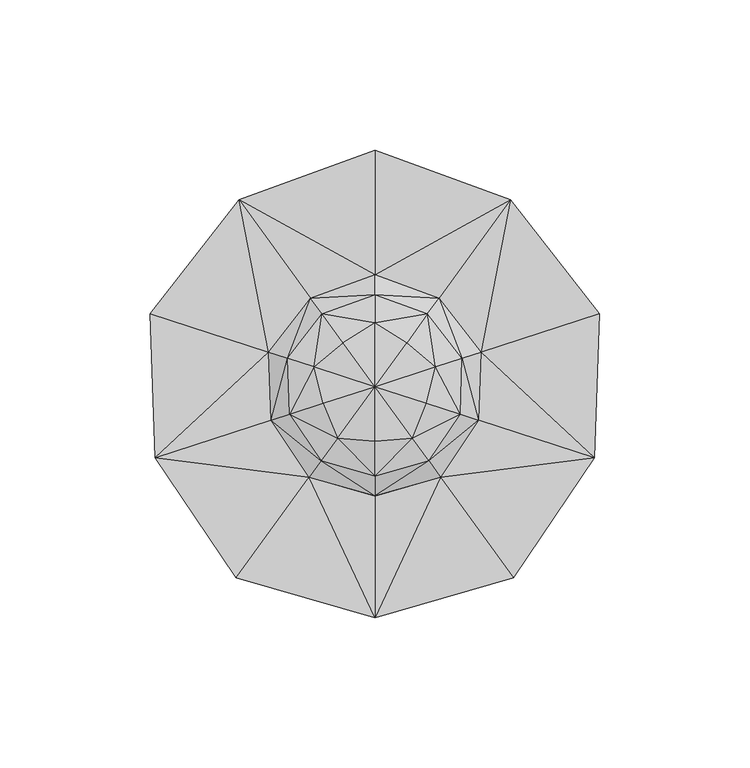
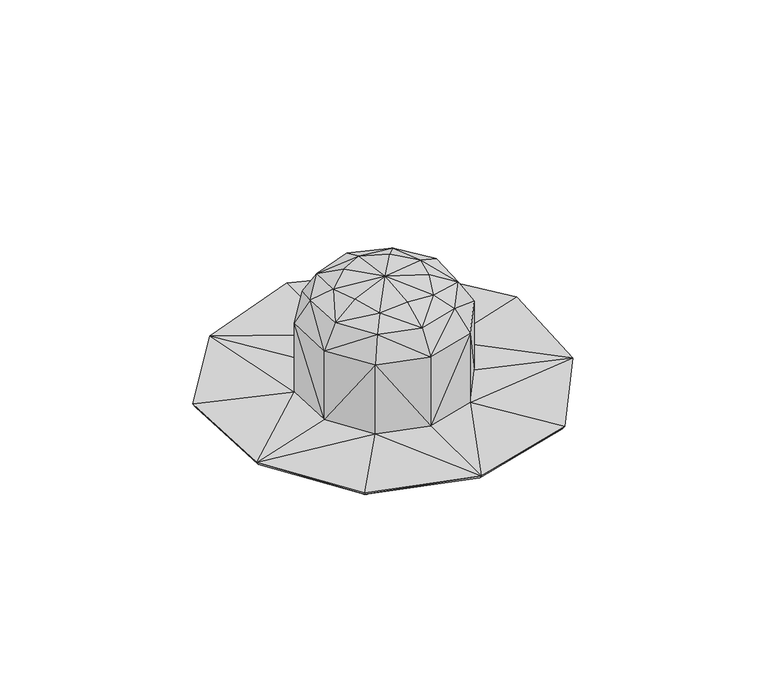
"""IFC4 building model written with IfcOpenShell, lengths in millimetres: geographic element geometry, Enscape AssetDefinition - Strawberry Cake : Enscape AssetDefinition - Strawberry Cake."""

from ifc_helpers import new_model, si_unit, origin, place, context, project, spatial, faceted_brep, source, transform, mapped, element, save


def geographic_element_7c6608a7(model_context):
    return source(origin(), model_context, "Body", "Brep", [
        faceted_brep([(-25.293177, 34.8130725, 1.1032628), (-44.5959419, 61.3810346, 7.4311858), (0.0, 48.9028804, 1.9613397), (-73.7843513, 23.9739846, 7.4311858), (-46.5094037, 15.1118152, 1.9613397), (-45.1462828, 62.1385053, 8.8836225), (0.0, 77.5814578, 7.4311858), (0.0, 0.0, 0.0), (-40.9252308, -13.2974153, 1.1032628), (-72.1577331, -23.4454684, 7.4311858), (-73.0481967, -23.734808, 8.8836225), (-74.6948868, 24.2698379, 8.8836225), (-45.6012413, -62.7647191, 7.4311858), (-28.7444014, -39.5632796, 1.9613397), (0.0, -43.0313274, 1.1032628), (0.0, -75.8711472, 7.4311858), (0.0, -76.8074468, 8.8836225), (-46.1639874, -63.5392815, 8.8836225), (45.6012413, -62.7647191, 7.4311858), (28.7444014, -39.5632647, 1.9613397), (40.9252122, -13.2974004, 1.1032628), (72.1577331, -23.4454684, 7.4311858), (73.0482116, -23.7347949, 8.8836225), (46.1639874, -63.539274, 8.8836225), (73.7843513, 23.9739995, 7.4311858), (46.5094037, 15.111831, 1.9613397), (25.293177, 34.8130725, 1.1032628), (44.5959307, 61.3810495, 7.4311858), (45.1462679, 62.1385202, 8.8836225), (74.6948868, 24.2698528, 8.8836225), (0.0, 78.5388574, 8.8836225), (-21.3791765, 29.4259079, 8.8836225), (-35.37203, 11.4930747, 8.8836225), (0.0, 37.1923521, 8.8836225), (0.0, 37.1685848, 42.3866585), (21.3791765, 29.4259079, 8.8836225), (-21.3655122, 29.4071119, 42.3866585), (-35.3494212, 11.4857312, 42.3866585), (21.3655122, 29.4071119, 42.3866585), (0.0, 30.5560827, 52.7290665), (35.3720188, 11.4930747, 8.8836225), (35.3494212, 11.4857312, 42.3866585), (17.5644774, 24.1754167, 52.7290665), (29.0605631, 9.4423611, 52.7290665), (-17.5644774, 24.1754167, 52.7290665), (0.0, 21.2248638, 56.7684658), (10.6393304, 14.6437725, 58.1822544), (20.186035, 6.5588513, 56.7684658), (28.4199137, -9.2341918, 52.7290665), (34.5701277, -11.2325186, 42.3866585), (17.2147993, -5.5934186, 58.1822544), (0.0, 0.0, 59.99998), (-10.6393304, 14.6437725, 58.1822544), (-20.186035, 6.5588364, 56.7684658), (-29.0605631, 9.4423462, 52.7290665), (-28.4199137, -9.2341918, 52.7290665), (-17.2147825, -5.5934186, 58.1822544), (-34.5701277, -11.2325186, 42.3866585), (-17.9604162, -24.7203875, 52.7290665), (-12.4756582, -17.1712693, 56.7684658), (-34.5922336, -11.2396991, 8.8836225), (-21.8471456, -30.0700162, 42.3866585), (0.0, -29.8824664, 52.7290665), (0.0, -36.3491885, 42.3866585), (-21.8611211, -30.0892424, 8.8836225), (0.0, -36.3724343, 8.8836225), (21.8611211, -30.0892424, 8.8836225), (21.8471456, -30.0700162, 42.3866585), (34.5922336, -11.2396991, 8.8836225), (17.9604162, -24.7203875, 52.7290665), (12.4756582, -17.1712693, 56.7684658), (0.0, -18.1006938, 58.1822544)], [[[0, 1, 2]], [[3, 1, 4]], [[1, 3, 5]], [[1, 5, 6]], [[2, 1, 6]], [[4, 1, 0]], [[0, 7, 4]], [[2, 7, 0]], [[8, 9, 4]], [[4, 9, 3]], [[4, 7, 8]], [[9, 10, 3]], [[5, 3, 11]], [[3, 10, 11]], [[12, 9, 13]], [[9, 12, 10]], [[13, 9, 8]], [[8, 7, 13]], [[14, 15, 13]], [[13, 15, 12]], [[13, 7, 14]], [[15, 16, 12]], [[10, 12, 17]], [[12, 16, 17]], [[18, 15, 19]], [[15, 18, 16]], [[19, 15, 14]], [[14, 7, 19]], [[20, 21, 19]], [[19, 21, 18]], [[19, 7, 20]], [[21, 22, 18]], [[18, 22, 23]], [[16, 18, 23]], [[24, 21, 25]], [[21, 24, 22]], [[25, 21, 20]], [[20, 7, 25]], [[26, 7, 2]], [[25, 7, 26]], [[26, 27, 25]], [[25, 27, 24]], [[27, 28, 24]], [[22, 24, 29]], [[24, 28, 29]], [[6, 27, 2]], [[27, 6, 28]], [[2, 27, 26]], [[6, 5, 30]], [[28, 6, 30]], [[31, 5, 32]], [[31, 33, 5]], [[32, 5, 11]], [[5, 33, 30]], [[33, 28, 30]], [[33, 31, 34]], [[35, 28, 33]], [[34, 35, 33]], [[36, 31, 37]], [[37, 31, 32]], [[34, 31, 36]], [[38, 35, 34]], [[39, 38, 34]], [[36, 39, 34]], [[35, 40, 28]], [[40, 35, 41]], [[41, 35, 38]], [[42, 43, 38]], [[42, 38, 39]], [[38, 43, 41]], [[44, 39, 36]], [[39, 44, 45]], [[45, 42, 39]], [[46, 42, 45]], [[43, 42, 47]], [[47, 42, 46]], [[48, 49, 43]], [[43, 49, 41]], [[47, 48, 43]], [[50, 48, 47]], [[46, 51, 47]], [[47, 51, 50]], [[45, 51, 46]], [[52, 51, 45]], [[45, 44, 52]], [[52, 44, 53]], [[53, 51, 52]], [[54, 55, 53]], [[56, 51, 53]], [[53, 44, 54]], [[53, 55, 56]], [[55, 54, 57]], [[55, 57, 58]], [[56, 55, 59]], [[59, 55, 58]], [[44, 36, 54]], [[54, 36, 37]], [[57, 54, 37]], [[57, 60, 61]], [[37, 60, 57]], [[58, 57, 61]], [[62, 58, 63]], [[58, 62, 59]], [[63, 58, 61]], [[64, 65, 61]], [[61, 60, 64]], [[61, 65, 63]], [[60, 32, 10]], [[60, 10, 64]], [[32, 60, 37]], [[65, 64, 16]], [[16, 64, 17]], [[64, 10, 17]], [[65, 16, 66]], [[63, 65, 67]], [[67, 65, 66]], [[66, 16, 23]], [[68, 66, 22]], [[66, 68, 67]], [[22, 66, 23]], [[67, 68, 49]], [[69, 63, 67]], [[49, 69, 67]], [[68, 22, 40]], [[49, 68, 41]], [[41, 68, 40]], [[40, 22, 29]], [[28, 40, 29]], [[48, 69, 49]], [[62, 63, 69]], [[69, 48, 70]], [[70, 62, 69]], [[70, 48, 50]], [[71, 62, 70]], [[50, 51, 70]], [[70, 51, 71]], [[59, 62, 71]], [[71, 51, 59]], [[59, 51, 56]], [[10, 32, 11]]]),
    ])


if __name__ == "__main__":
    model = new_model("IFC4")
    model_context = context("Model", 3, world=origin())
    ifc_project = project(units=[si_unit("LENGTHUNIT", "METRE", prefix="MILLI")], contexts=[model_context])
    site = spatial("IfcSite", under=ifc_project)
    building = spatial("IfcBuilding", under=site)
    placement = place(None, origin())
    geographic_element_shape = geographic_element_7c6608a7(model_context)
    element("IfcGeographicElement", 1, ObjectType="Enscape AssetDefinition - Strawberry Cake : Enscape AssetDefinition - Strawberry Cake", at=placement, inside=building, context=model_context, shape_type="MappedRepresentation", body=[
        mapped(geographic_element_shape, transform((0.0, 0.0, 0.0), x_axis=(1.0, 0.0, 0.0), y_axis=(0.0, 1.0, 0.0), z_axis=(0.0, 0.0, 1.0))),
    ])
    save(model, "model.ifc")
